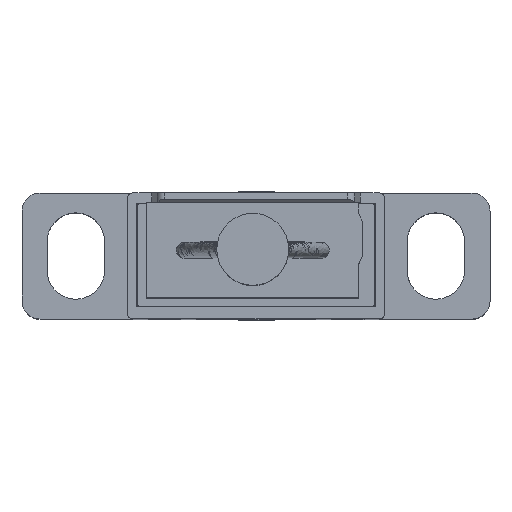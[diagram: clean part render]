
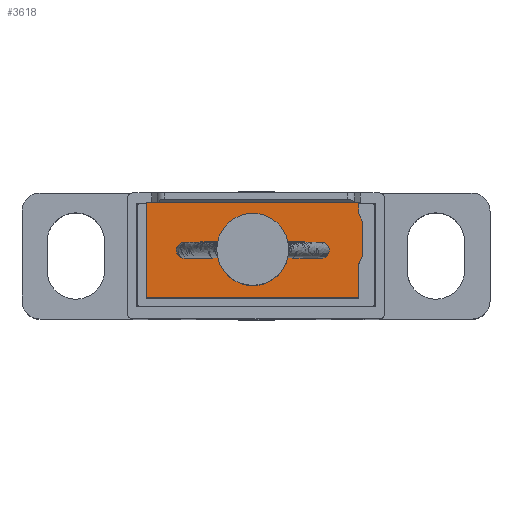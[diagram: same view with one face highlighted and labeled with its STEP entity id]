
A CAD part, top view. The second image highlights one B-rep face of the part: STEP entity #3618.
In plain terms, the highlighted planar face has unit normal (0, 0, 1).
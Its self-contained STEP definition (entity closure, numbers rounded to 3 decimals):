
#109=(
BOUNDED_CURVE()
B_SPLINE_CURVE(3,(#16057,#16058,#16059,#16060,#16061,#16062,#16063),
 .UNSPECIFIED.,.T.,.F.)
B_SPLINE_CURVE_WITH_KNOTS((1,3,3,3,1),(-0.5,0.,0.5,1.,1.5),
 .UNSPECIFIED.)
CURVE()
GEOMETRIC_REPRESENTATION_ITEM()
RATIONAL_B_SPLINE_CURVE((1.,0.333,0.333,1.,0.333,
0.333,1.))
REPRESENTATION_ITEM('')
);
#110=(
BOUNDED_CURVE()
B_SPLINE_CURVE(3,(#16083,#16084,#16085,#16086,#16087,#16088,#16089),
 .UNSPECIFIED.,.T.,.F.)
B_SPLINE_CURVE_WITH_KNOTS((1,3,3,3,1),(-0.5,0.,0.5,1.,1.5),
 .UNSPECIFIED.)
CURVE()
GEOMETRIC_REPRESENTATION_ITEM()
RATIONAL_B_SPLINE_CURVE((1.,0.333,0.333,1.,0.333,
0.333,1.))
REPRESENTATION_ITEM('')
);
#111=(
BOUNDED_CURVE()
B_SPLINE_CURVE(3,(#16091,#16092,#16093,#16094,#16095,#16096,#16097),
 .UNSPECIFIED.,.T.,.F.)
B_SPLINE_CURVE_WITH_KNOTS((1,3,3,3,1),(-0.5,0.,0.5,1.,1.5),
 .UNSPECIFIED.)
CURVE()
GEOMETRIC_REPRESENTATION_ITEM()
RATIONAL_B_SPLINE_CURVE((1.,0.333,0.333,1.,0.333,
0.333,1.))
REPRESENTATION_ITEM('')
);
#428=PLANE('',#10819);
#651=FACE_BOUND('',#4679,.T.);
#652=FACE_BOUND('',#4680,.T.);
#653=FACE_BOUND('',#4681,.T.);
#654=FACE_BOUND('',#4682,.T.);
#655=FACE_BOUND('',#4683,.T.);
#1663=LINE('',#16067,#2876);
#1664=LINE('',#16070,#2877);
#1665=LINE('',#16072,#2878);
#1666=LINE('',#16074,#2879);
#1667=LINE('',#16076,#2880);
#1668=LINE('',#16078,#2881);
#1669=LINE('',#16080,#2882);
#1670=LINE('',#16082,#2883);
#2876=VECTOR('',#12905,1.);
#2877=VECTOR('',#12906,1.);
#2878=VECTOR('',#12907,1.);
#2879=VECTOR('',#12908,1.);
#2880=VECTOR('',#12909,1.);
#2881=VECTOR('',#12910,1.);
#2882=VECTOR('',#12911,1.);
#2883=VECTOR('',#12912,1.);
#3618=ADVANCED_FACE('',(#651,#652,#653,#654,#655),#428,.T.);
#4679=EDGE_LOOP('',(#6920));
#4680=EDGE_LOOP('',(#6921));
#4681=EDGE_LOOP('',(#6922,#6923,#6924,#6925,#6926,#6927,#6928,#6929));
#4682=EDGE_LOOP('',(#6930));
#4683=EDGE_LOOP('',(#6931));
#6920=ORIENTED_EDGE('',*,*,#9705,.F.);
#6921=ORIENTED_EDGE('',*,*,#9706,.F.);
#6922=ORIENTED_EDGE('',*,*,#9707,.F.);
#6923=ORIENTED_EDGE('',*,*,#9708,.F.);
#6924=ORIENTED_EDGE('',*,*,#9709,.F.);
#6925=ORIENTED_EDGE('',*,*,#9710,.F.);
#6926=ORIENTED_EDGE('',*,*,#9711,.F.);
#6927=ORIENTED_EDGE('',*,*,#9712,.F.);
#6928=ORIENTED_EDGE('',*,*,#9713,.F.);
#6929=ORIENTED_EDGE('',*,*,#9714,.F.);
#6930=ORIENTED_EDGE('',*,*,#9715,.F.);
#6931=ORIENTED_EDGE('',*,*,#9716,.F.);
#8417=VERTEX_POINT('',#16064);
#8418=VERTEX_POINT('',#16066);
#8419=VERTEX_POINT('',#16068);
#8420=VERTEX_POINT('',#16069);
#8421=VERTEX_POINT('',#16071);
#8422=VERTEX_POINT('',#16073);
#8423=VERTEX_POINT('',#16075);
#8424=VERTEX_POINT('',#16077);
#8425=VERTEX_POINT('',#16079);
#8426=VERTEX_POINT('',#16081);
#8427=VERTEX_POINT('',#16090);
#8428=VERTEX_POINT('',#16098);
#9705=EDGE_CURVE('',#8417,#8417,#109,.T.);
#9706=EDGE_CURVE('',#8418,#8418,#10255,.T.);
#9707=EDGE_CURVE('',#8419,#8420,#1663,.T.);
#9708=EDGE_CURVE('',#8421,#8419,#1664,.T.);
#9709=EDGE_CURVE('',#8422,#8421,#1665,.T.);
#9710=EDGE_CURVE('',#8423,#8422,#1666,.T.);
#9711=EDGE_CURVE('',#8424,#8423,#1667,.T.);
#9712=EDGE_CURVE('',#8425,#8424,#1668,.T.);
#9713=EDGE_CURVE('',#8426,#8425,#1669,.T.);
#9714=EDGE_CURVE('',#8420,#8426,#1670,.T.);
#9715=EDGE_CURVE('',#8427,#8427,#110,.T.);
#9716=EDGE_CURVE('',#8428,#8428,#111,.T.);
#10255=CIRCLE('',#10818,0.45);
#10818=AXIS2_PLACEMENT_3D('',#16065,#12903,#12904);
#10819=AXIS2_PLACEMENT_3D('',#16099,#12913,#12914);
#12903=DIRECTION('',(0.,0.,1.));
#12904=DIRECTION('',(0.,-1.,0.));
#12905=DIRECTION('',(-1.,0.,0.));
#12906=DIRECTION('',(0.,-1.,0.));
#12907=DIRECTION('',(-0.371,-0.928,0.));
#12908=DIRECTION('',(0.,-1.,0.));
#12909=DIRECTION('',(0.371,-0.928,0.));
#12910=DIRECTION('',(0.,-1.,0.));
#12911=DIRECTION('',(1.,0.,0.));
#12912=DIRECTION('',(0.,1.,0.));
#12913=DIRECTION('',(0.,0.,1.));
#12914=DIRECTION('',(0.,-1.,0.));
#16057=CARTESIAN_POINT('',(-149.98,-3.95,32.3));
#16058=CARTESIAN_POINT('',(-149.08,-3.95,32.3));
#16059=CARTESIAN_POINT('',(-149.08,-3.05,32.3));
#16060=CARTESIAN_POINT('',(-149.98,-3.05,32.3));
#16061=CARTESIAN_POINT('',(-150.88,-3.05,32.3));
#16062=CARTESIAN_POINT('',(-150.88,-3.95,32.3));
#16063=CARTESIAN_POINT('',(-149.98,-3.95,32.3));
#16064=CARTESIAN_POINT('',(-149.98,-3.95,32.3));
#16065=CARTESIAN_POINT('',(-152.28,-3.5,32.3));
#16066=CARTESIAN_POINT('',(-152.28,-3.95,32.3));
#16067=CARTESIAN_POINT('',(-154.38,-6.15,32.3));
#16068=CARTESIAN_POINT('',(-142.58,-6.15,32.3));
#16069=CARTESIAN_POINT('',(-154.38,-6.15,32.3));
#16070=CARTESIAN_POINT('',(-142.58,-6.15,32.3));
#16071=CARTESIAN_POINT('',(-142.58,-4.25,32.3));
#16072=CARTESIAN_POINT('',(-142.38,-3.75,32.3));
#16073=CARTESIAN_POINT('',(-142.38,-3.75,32.3));
#16074=CARTESIAN_POINT('',(-142.38,-3.75,32.3));
#16075=CARTESIAN_POINT('',(-142.38,-1.95,32.3));
#16076=CARTESIAN_POINT('',(-142.38,-1.95,32.3));
#16077=CARTESIAN_POINT('',(-142.58,-1.45,32.3));
#16078=CARTESIAN_POINT('',(-142.58,-1.45,32.3));
#16079=CARTESIAN_POINT('',(-142.58,-0.85,32.3));
#16080=CARTESIAN_POINT('',(-154.38,-0.85,32.3));
#16081=CARTESIAN_POINT('',(-154.38,-0.85,32.3));
#16082=CARTESIAN_POINT('',(-154.38,-6.15,32.3));
#16083=CARTESIAN_POINT('',(-144.68,-3.95,32.3));
#16084=CARTESIAN_POINT('',(-143.78,-3.95,32.3));
#16085=CARTESIAN_POINT('',(-143.78,-3.05,32.3));
#16086=CARTESIAN_POINT('',(-144.68,-3.05,32.3));
#16087=CARTESIAN_POINT('',(-145.58,-3.05,32.3));
#16088=CARTESIAN_POINT('',(-145.58,-3.95,32.3));
#16089=CARTESIAN_POINT('',(-144.68,-3.95,32.3));
#16090=CARTESIAN_POINT('',(-144.68,-3.95,32.3));
#16091=CARTESIAN_POINT('',(-146.98,-3.95,32.3));
#16092=CARTESIAN_POINT('',(-146.08,-3.95,32.3));
#16093=CARTESIAN_POINT('',(-146.08,-3.05,32.3));
#16094=CARTESIAN_POINT('',(-146.98,-3.05,32.3));
#16095=CARTESIAN_POINT('',(-147.88,-3.05,32.3));
#16096=CARTESIAN_POINT('',(-147.88,-3.95,32.3));
#16097=CARTESIAN_POINT('',(-146.98,-3.95,32.3));
#16098=CARTESIAN_POINT('',(-146.98,-3.95,32.3));
#16099=CARTESIAN_POINT('',(-154.38,-6.15,32.3));
